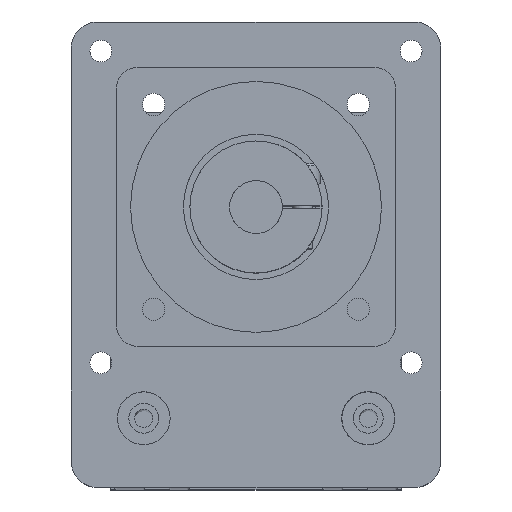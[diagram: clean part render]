
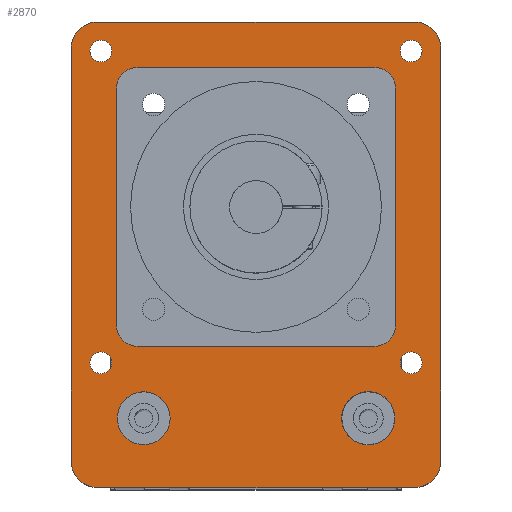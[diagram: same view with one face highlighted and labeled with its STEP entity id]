
A CAD part, top view. The second image highlights one B-rep face of the part: STEP entity #2870.
In plain terms, the highlighted planar face has unit normal (0, 0, 1).
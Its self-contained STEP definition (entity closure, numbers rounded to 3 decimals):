
#753=PLANE('',#10257);
#1621=LINE('',#16695,#2209);
#1622=LINE('',#16699,#2210);
#1623=LINE('',#16703,#2211);
#1624=LINE('',#16707,#2212);
#1625=LINE('',#16710,#2213);
#1626=LINE('',#16715,#2214);
#1627=LINE('',#16719,#2215);
#1628=LINE('',#16723,#2216);
#2209=VECTOR('',#12479,1.);
#2210=VECTOR('',#12482,1.);
#2211=VECTOR('',#12485,1.);
#2212=VECTOR('',#12488,1.);
#2213=VECTOR('',#12491,1.);
#2214=VECTOR('',#12494,1.);
#2215=VECTOR('',#12497,1.);
#2216=VECTOR('',#12500,1.);
#2870=ADVANCED_FACE('NONE',(#3374,#3375,#3376,#3377,#3378,#3379,#3380,#3381),
#753,.T.);
#3374=FACE_BOUND('',#4110,.T.);
#3375=FACE_BOUND('',#4111,.T.);
#3376=FACE_BOUND('',#4112,.T.);
#3377=FACE_BOUND('',#4113,.T.);
#3378=FACE_BOUND('',#4114,.T.);
#3379=FACE_BOUND('',#4115,.T.);
#3380=FACE_BOUND('',#4116,.T.);
#3381=FACE_BOUND('',#4117,.T.);
#4110=EDGE_LOOP('',(#6334));
#4111=EDGE_LOOP('',(#6335,#6336,#6337,#6338,#6339,#6340,#6341,#6342));
#4112=EDGE_LOOP('',(#6343));
#4113=EDGE_LOOP('',(#6344,#6345,#6346,#6347,#6348,#6349,#6350,#6351));
#4114=EDGE_LOOP('',(#6352));
#4115=EDGE_LOOP('',(#6353));
#4116=EDGE_LOOP('',(#6354));
#4117=EDGE_LOOP('',(#6355));
#6334=ORIENTED_EDGE('',*,*,#8829,.F.);
#6335=ORIENTED_EDGE('',*,*,#8850,.F.);
#6336=ORIENTED_EDGE('',*,*,#8851,.F.);
#6337=ORIENTED_EDGE('',*,*,#8852,.F.);
#6338=ORIENTED_EDGE('',*,*,#8853,.F.);
#6339=ORIENTED_EDGE('',*,*,#8854,.F.);
#6340=ORIENTED_EDGE('',*,*,#8855,.F.);
#6341=ORIENTED_EDGE('',*,*,#8856,.F.);
#6342=ORIENTED_EDGE('',*,*,#8857,.F.);
#6343=ORIENTED_EDGE('',*,*,#8858,.F.);
#6344=ORIENTED_EDGE('',*,*,#8859,.T.);
#6345=ORIENTED_EDGE('',*,*,#8860,.T.);
#6346=ORIENTED_EDGE('',*,*,#8861,.T.);
#6347=ORIENTED_EDGE('',*,*,#8862,.T.);
#6348=ORIENTED_EDGE('',*,*,#8863,.T.);
#6349=ORIENTED_EDGE('',*,*,#8864,.T.);
#6350=ORIENTED_EDGE('',*,*,#8865,.T.);
#6351=ORIENTED_EDGE('',*,*,#8866,.T.);
#6352=ORIENTED_EDGE('',*,*,#8867,.T.);
#6353=ORIENTED_EDGE('',*,*,#8868,.F.);
#6354=ORIENTED_EDGE('',*,*,#8869,.F.);
#6355=ORIENTED_EDGE('',*,*,#8870,.F.);
#7559=VERTEX_POINT('',#16647);
#7580=VERTEX_POINT('',#16693);
#7581=VERTEX_POINT('',#16694);
#7582=VERTEX_POINT('',#16696);
#7583=VERTEX_POINT('',#16698);
#7584=VERTEX_POINT('',#16700);
#7585=VERTEX_POINT('',#16702);
#7586=VERTEX_POINT('',#16704);
#7587=VERTEX_POINT('',#16706);
#7588=VERTEX_POINT('',#16709);
#7589=VERTEX_POINT('',#16711);
#7590=VERTEX_POINT('',#16712);
#7591=VERTEX_POINT('',#16714);
#7592=VERTEX_POINT('',#16716);
#7593=VERTEX_POINT('',#16718);
#7594=VERTEX_POINT('',#16720);
#7595=VERTEX_POINT('',#16722);
#7596=VERTEX_POINT('',#16724);
#7597=VERTEX_POINT('',#16727);
#7598=VERTEX_POINT('',#16729);
#7599=VERTEX_POINT('',#16731);
#7600=VERTEX_POINT('',#16733);
#8829=EDGE_CURVE('',#7559,#7559,#9394,.T.);
#8850=EDGE_CURVE('NONE',#7580,#7581,#9411,.T.);
#8851=EDGE_CURVE('NONE',#7582,#7580,#1621,.T.);
#8852=EDGE_CURVE('NONE',#7583,#7582,#9412,.T.);
#8853=EDGE_CURVE('NONE',#7584,#7583,#1622,.T.);
#8854=EDGE_CURVE('NONE',#7585,#7584,#9413,.T.);
#8855=EDGE_CURVE('NONE',#7586,#7585,#1623,.T.);
#8856=EDGE_CURVE('NONE',#7587,#7586,#9414,.T.);
#8857=EDGE_CURVE('NONE',#7581,#7587,#1624,.T.);
#8858=EDGE_CURVE('NONE',#7588,#7588,#9415,.T.);
#8859=EDGE_CURVE('NONE',#7589,#7590,#1625,.T.);
#8860=EDGE_CURVE('',#7590,#7591,#9416,.T.);
#8861=EDGE_CURVE('NONE',#7591,#7592,#1626,.T.);
#8862=EDGE_CURVE('',#7592,#7593,#9417,.T.);
#8863=EDGE_CURVE('NONE',#7593,#7594,#1627,.T.);
#8864=EDGE_CURVE('',#7594,#7595,#9418,.T.);
#8865=EDGE_CURVE('NONE',#7595,#7596,#1628,.T.);
#8866=EDGE_CURVE('',#7596,#7589,#9419,.T.);
#8867=EDGE_CURVE('',#7597,#7597,#9420,.T.);
#8868=EDGE_CURVE('',#7598,#7598,#9421,.T.);
#8869=EDGE_CURVE('',#7599,#7599,#9422,.T.);
#8870=EDGE_CURVE('',#7600,#7600,#9423,.T.);
#9394=CIRCLE('',#10223,4.);
#9411=CIRCLE('',#10244,3.1);
#9412=CIRCLE('',#10245,3.1);
#9413=CIRCLE('',#10246,3.1);
#9414=CIRCLE('',#10247,3.1);
#9415=CIRCLE('',#10248,4.025);
#9416=CIRCLE('',#10249,4.);
#9417=CIRCLE('',#10250,4.);
#9418=CIRCLE('',#10251,4.);
#9419=CIRCLE('',#10252,4.);
#9420=CIRCLE('',#10253,1.65);
#9421=CIRCLE('',#10254,1.65);
#9422=CIRCLE('',#10255,1.65);
#9423=CIRCLE('',#10256,1.65);
#10223=AXIS2_PLACEMENT_3D('',#16646,#12431,#12432);
#10244=AXIS2_PLACEMENT_3D('',#16692,#12477,#12478);
#10245=AXIS2_PLACEMENT_3D('',#16697,#12480,#12481);
#10246=AXIS2_PLACEMENT_3D('',#16701,#12483,#12484);
#10247=AXIS2_PLACEMENT_3D('',#16705,#12486,#12487);
#10248=AXIS2_PLACEMENT_3D('',#16708,#12489,#12490);
#10249=AXIS2_PLACEMENT_3D('',#16713,#12492,#12493);
#10250=AXIS2_PLACEMENT_3D('',#16717,#12495,#12496);
#10251=AXIS2_PLACEMENT_3D('',#16721,#12498,#12499);
#10252=AXIS2_PLACEMENT_3D('',#16725,#12501,#12502);
#10253=AXIS2_PLACEMENT_3D('',#16726,#12503,#12504);
#10254=AXIS2_PLACEMENT_3D('',#16728,#12505,#12506);
#10255=AXIS2_PLACEMENT_3D('',#16730,#12507,#12508);
#10256=AXIS2_PLACEMENT_3D('',#16732,#12509,#12510);
#10257=AXIS2_PLACEMENT_3D('',#16734,#12511,#12512);
#12431=DIRECTION('',(0.,0.,1.));
#12432=DIRECTION('',(1.,0.,0.));
#12477=DIRECTION('',(0.,0.,1.));
#12478=DIRECTION('',(1.,0.,0.));
#12479=DIRECTION('',(0.,1.,0.));
#12480=DIRECTION('',(0.,0.,1.));
#12481=DIRECTION('',(1.,0.,0.));
#12482=DIRECTION('',(1.,0.,0.));
#12483=DIRECTION('',(0.,0.,1.));
#12484=DIRECTION('',(1.,0.,0.));
#12485=DIRECTION('',(0.,-1.,0.));
#12486=DIRECTION('',(0.,0.,1.));
#12487=DIRECTION('',(1.,0.,0.));
#12488=DIRECTION('',(-1.,0.,0.));
#12489=DIRECTION('',(0.,0.,1.));
#12490=DIRECTION('',(1.,0.,0.));
#12491=DIRECTION('',(1.,0.,0.));
#12492=DIRECTION('',(0.,0.,1.));
#12493=DIRECTION('',(1.,0.,0.));
#12494=DIRECTION('',(0.,1.,0.));
#12495=DIRECTION('',(0.,0.,1.));
#12496=DIRECTION('',(1.,0.,0.));
#12497=DIRECTION('',(-1.,0.,0.));
#12498=DIRECTION('',(0.,0.,1.));
#12499=DIRECTION('',(1.,0.,0.));
#12500=DIRECTION('',(0.,-1.,0.));
#12501=DIRECTION('',(0.,0.,1.));
#12502=DIRECTION('',(1.,0.,0.));
#12503=DIRECTION('',(0.,0.,-1.));
#12504=DIRECTION('',(-1.,0.,0.));
#12505=DIRECTION('',(0.,0.,1.));
#12506=DIRECTION('',(1.,0.,0.));
#12507=DIRECTION('',(0.,0.,1.));
#12508=DIRECTION('',(1.,0.,0.));
#12509=DIRECTION('',(0.,0.,1.));
#12510=DIRECTION('',(1.,0.,0.));
#12511=DIRECTION('',(0.,0.,1.));
#12512=DIRECTION('',(1.,0.,0.));
#16646=CARTESIAN_POINT('',(-19.496,-1.815,308.));
#16647=CARTESIAN_POINT('',(-15.496,-1.815,308.));
#16692=CARTESIAN_POINT('',(15.504,48.185,308.));
#16693=CARTESIAN_POINT('',(18.604,48.185,308.));
#16694=CARTESIAN_POINT('',(15.504,51.285,308.));
#16695=CARTESIAN_POINT('',(18.604,15.073,308.));
#16696=CARTESIAN_POINT('',(18.604,12.185,308.));
#16697=CARTESIAN_POINT('',(15.504,12.185,308.));
#16698=CARTESIAN_POINT('',(15.504,9.085,308.));
#16699=CARTESIAN_POINT('',(-4.066,9.085,308.));
#16700=CARTESIAN_POINT('',(-20.496,9.085,308.));
#16701=CARTESIAN_POINT('',(-20.496,12.185,308.));
#16702=CARTESIAN_POINT('',(-23.596,12.185,308.));
#16703=CARTESIAN_POINT('',(-23.596,15.073,308.));
#16704=CARTESIAN_POINT('',(-23.596,48.185,308.));
#16705=CARTESIAN_POINT('',(-20.496,48.185,308.));
#16706=CARTESIAN_POINT('',(-20.496,51.285,308.));
#16707=CARTESIAN_POINT('',(-4.066,51.285,308.));
#16708=CARTESIAN_POINT('',(14.504,-1.815,308.));
#16709=CARTESIAN_POINT('',(18.529,-1.815,308.));
#16710=CARTESIAN_POINT('',(-30.496,-12.315,308.));
#16711=CARTESIAN_POINT('',(-26.496,-12.315,308.));
#16712=CARTESIAN_POINT('',(21.504,-12.315,308.));
#16713=CARTESIAN_POINT('',(21.504,-8.315,308.));
#16714=CARTESIAN_POINT('',(25.504,-8.315,308.));
#16715=CARTESIAN_POINT('',(25.504,58.185,308.));
#16716=CARTESIAN_POINT('',(25.504,54.185,308.));
#16717=CARTESIAN_POINT('',(21.504,54.185,308.));
#16718=CARTESIAN_POINT('',(21.504,58.185,308.));
#16719=CARTESIAN_POINT('',(-30.496,58.185,308.));
#16720=CARTESIAN_POINT('',(-26.496,58.185,308.));
#16721=CARTESIAN_POINT('',(-26.496,54.185,308.));
#16722=CARTESIAN_POINT('',(-30.496,54.185,308.));
#16723=CARTESIAN_POINT('',(-30.496,58.185,308.));
#16724=CARTESIAN_POINT('',(-30.496,-8.315,308.));
#16725=CARTESIAN_POINT('',(-26.496,-8.315,308.));
#16726=CARTESIAN_POINT('',(21.004,53.785,308.));
#16727=CARTESIAN_POINT('',(19.354,53.785,308.));
#16728=CARTESIAN_POINT('',(-25.996,53.785,308.));
#16729=CARTESIAN_POINT('',(-24.346,53.785,308.));
#16730=CARTESIAN_POINT('',(21.004,6.585,308.));
#16731=CARTESIAN_POINT('',(22.654,6.585,308.));
#16732=CARTESIAN_POINT('',(-25.996,6.585,308.));
#16733=CARTESIAN_POINT('',(-24.346,6.585,308.));
#16734=CARTESIAN_POINT('',(-4.066,15.073,308.));
